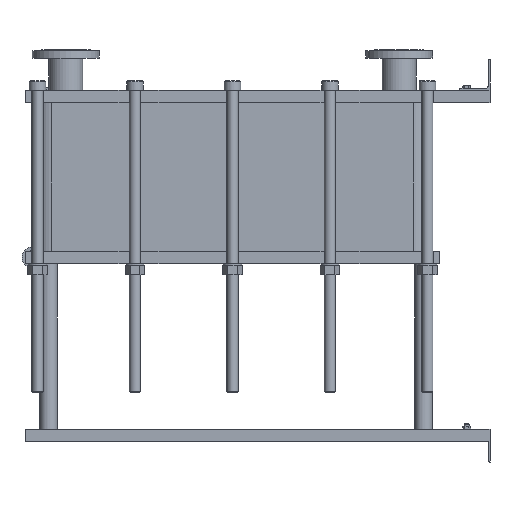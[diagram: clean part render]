
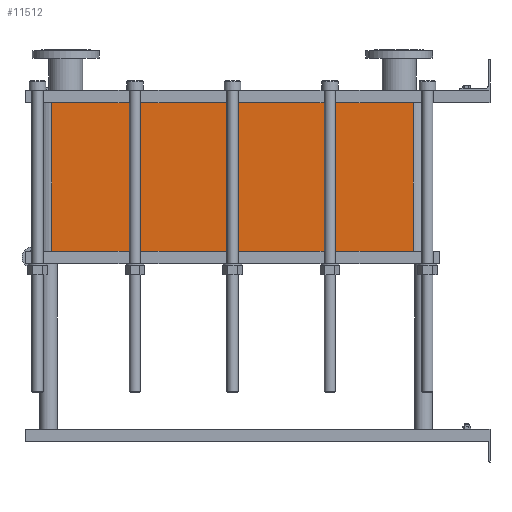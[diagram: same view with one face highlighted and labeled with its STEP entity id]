
A CAD part, left-side view. The second image highlights one B-rep face of the part: STEP entity #11512.
In plain terms, the highlighted planar face has unit normal (-1, 0, 0).
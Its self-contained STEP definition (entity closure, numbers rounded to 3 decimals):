
#1129=LINE('',#23232,#2102);
#1130=LINE('',#23236,#2103);
#1131=LINE('',#23238,#2104);
#1132=LINE('',#23239,#2105);
#2102=VECTOR('',#15887,10.);
#2103=VECTOR('',#15892,10.);
#2104=VECTOR('',#15893,10.);
#2105=VECTOR('',#15894,10.);
#3267=FACE_OUTER_BOUND('',#4093,.T.);
#4093=EDGE_LOOP('',(#10103,#10104,#10105,#10106));
#5642=VERTEX_POINT('',#23229);
#5643=VERTEX_POINT('',#23231);
#5644=VERTEX_POINT('',#23235);
#5645=VERTEX_POINT('',#23237);
#7159=EDGE_CURVE('',#5643,#5642,#1129,.T.);
#7161=EDGE_CURVE('',#5642,#5644,#1130,.T.);
#7162=EDGE_CURVE('',#5645,#5644,#1131,.T.);
#7163=EDGE_CURVE('',#5645,#5643,#1132,.T.);
#10103=ORIENTED_EDGE('',*,*,#7161,.T.);
#10104=ORIENTED_EDGE('',*,*,#7162,.F.);
#10105=ORIENTED_EDGE('',*,*,#7163,.T.);
#10106=ORIENTED_EDGE('',*,*,#7159,.T.);
#10857=PLANE('',#12751);
#11512=ADVANCED_FACE('',(#3267),#10857,.T.);
#12751=AXIS2_PLACEMENT_3D('',#23234,#15890,#15891);
#15887=DIRECTION('',(0.,0.,-1.));
#15890=DIRECTION('center_axis',(-1.,0.,0.));
#15891=DIRECTION('ref_axis',(0.,1.,0.));
#15892=DIRECTION('',(0.,-1.,0.));
#15893=DIRECTION('',(0.,0.,-1.));
#15894=DIRECTION('',(0.,1.,0.));
#23229=CARTESIAN_POINT('',(-200.,1414.,-479.55));
#23231=CARTESIAN_POINT('',(-200.,1414.,0.));
#23232=CARTESIAN_POINT('',(-200.,1414.,0.));
#23234=CARTESIAN_POINT('Origin',(-200.,248.,0.));
#23235=CARTESIAN_POINT('',(-200.,248.,-479.55));
#23236=CARTESIAN_POINT('',(-200.,539.5,-479.55));
#23237=CARTESIAN_POINT('',(-200.,248.,0.));
#23238=CARTESIAN_POINT('',(-200.,248.,0.));
#23239=CARTESIAN_POINT('',(-200.,248.,0.));
